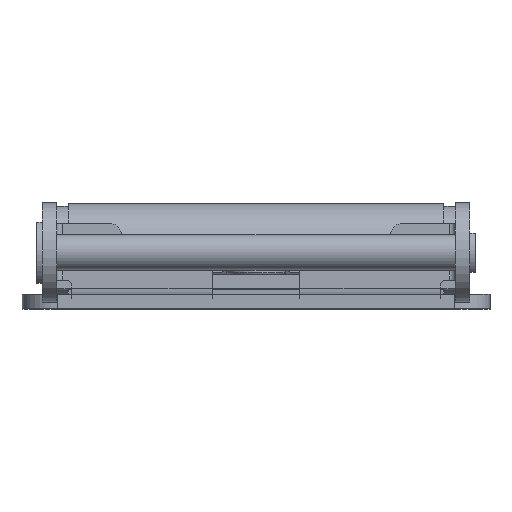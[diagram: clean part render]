
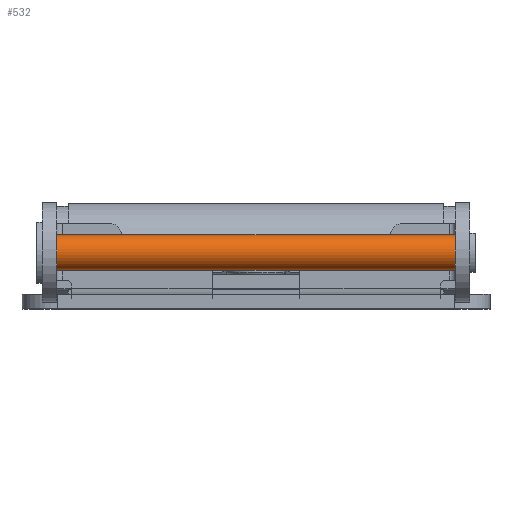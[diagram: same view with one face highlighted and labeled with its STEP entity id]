
A CAD part, top view. The second image highlights one B-rep face of the part: STEP entity #532.
In plain terms, the highlighted cylindrical face has radius 1.5 mm (diameter 3 mm), a full revolution.
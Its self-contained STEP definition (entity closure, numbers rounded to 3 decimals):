
#532 = ADVANCED_FACE( 'NONE', ( #1215, #1216 ), #1217, .T. );
#1215 = FACE_OUTER_BOUND( '', #2053, .T. );
#1216 = FACE_OUTER_BOUND( '', #2054, .T. );
#1217 = CYLINDRICAL_SURFACE( '', #2055, 1.5 );
#2053 = EDGE_LOOP( '', ( #3830 ) );
#2054 = EDGE_LOOP( '', ( #3831 ) );
#2055 = AXIS2_PLACEMENT_3D( '', #3832, #3833, #3834 );
#3830 = ORIENTED_EDGE( '', *, *, #5784, .F. );
#3831 = ORIENTED_EDGE( '', *, *, #5324, .F. );
#3832 = CARTESIAN_POINT( '', ( 18.25, 0., 4.75 ) );
#3833 = DIRECTION( '', ( 1., 0., 0. ) );
#3834 = DIRECTION( '', ( 0., 0., 1. ) );
#5324 = EDGE_CURVE( 'NONE', #6436, #6436, #6437, .T. );
#5784 = EDGE_CURVE( 'NONE', #7194, #7194, #7195, .T. );
#6436 = VERTEX_POINT( '', #8040 );
#6437 = CIRCLE( '', #8041, 1.5 );
#7194 = VERTEX_POINT( '', #9133 );
#7195 = CIRCLE( '', #9134, 1.5 );
#8040 = CARTESIAN_POINT( '', ( 17.05, 0., 3.25 ) );
#8041 = AXIS2_PLACEMENT_3D( '', #10131, #10132, #10133 );
#9133 = CARTESIAN_POINT( '', ( -17.05, 0., 6.25 ) );
#9134 = AXIS2_PLACEMENT_3D( '', #10753, #10754, #10755 );
#10131 = CARTESIAN_POINT( '', ( 17.05, 0., 4.75 ) );
#10132 = DIRECTION( '', ( 1., 0., 0. ) );
#10133 = DIRECTION( '', ( 0., 0., -1. ) );
#10753 = CARTESIAN_POINT( '', ( -17.05, 0., 4.75 ) );
#10754 = DIRECTION( '', ( -1., 0., 0. ) );
#10755 = DIRECTION( '', ( 0., 0., 1. ) );
